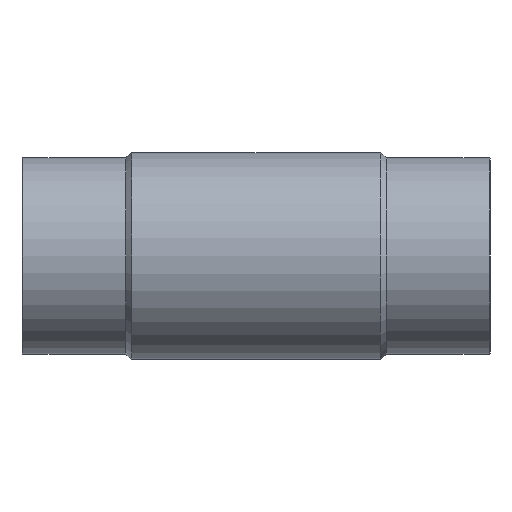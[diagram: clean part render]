
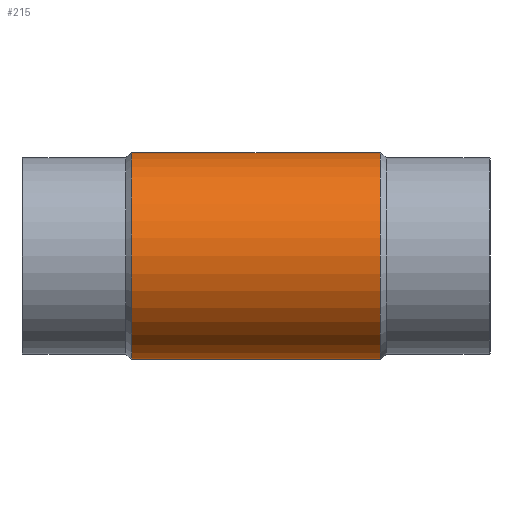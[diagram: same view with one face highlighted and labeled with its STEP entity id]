
A CAD part, front view. The second image highlights one B-rep face of the part: STEP entity #215.
In plain terms, the highlighted cylindrical face has radius 131.5 mm (diameter 263 mm), a full revolution.
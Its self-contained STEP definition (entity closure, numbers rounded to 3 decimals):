
#33=CIRCLE('',#250,131.5);
#35=CIRCLE('',#255,131.5);
#52=ORIENTED_EDGE('',*,*,#94,.T.);
#53=ORIENTED_EDGE('',*,*,#95,.T.);
#54=ORIENTED_EDGE('',*,*,#96,.F.);
#55=ORIENTED_EDGE('',*,*,#92,.T.);
#92=EDGE_CURVE('',#113,#113,#33,.T.);
#94=EDGE_CURVE('',#115,#116,#130,.T.);
#95=EDGE_CURVE('',#116,#115,#131,.F.);
#96=EDGE_CURVE('',#117,#117,#35,.T.);
#113=VERTEX_POINT('',#369);
#115=VERTEX_POINT('',#374);
#116=VERTEX_POINT('',#375);
#117=VERTEX_POINT('',#378);
#130=ELLIPSE('',#253,189.538,131.5);
#131=ELLIPSE('',#254,189.538,131.5);
#139=EDGE_LOOP('',(#52,#53));
#140=EDGE_LOOP('',(#54));
#141=EDGE_LOOP('',(#55));
#175=FACE_BOUND('',#139,.T.);
#176=FACE_BOUND('',#140,.T.);
#177=FACE_BOUND('',#141,.T.);
#207=CYLINDRICAL_SURFACE('',#252,131.5);
#215=ADVANCED_FACE('',(#175,#176,#177),#207,.T.);
#250=AXIS2_PLACEMENT_3D('',#368,#295,#296);
#252=AXIS2_PLACEMENT_3D('',#372,#299,#300);
#253=AXIS2_PLACEMENT_3D('',#373,#301,#302);
#254=AXIS2_PLACEMENT_3D('',#376,#303,#304);
#255=AXIS2_PLACEMENT_3D('',#377,#305,#306);
#295=DIRECTION('',(-1.,0.,0.));
#296=DIRECTION('',(0.,0.,1.));
#299=DIRECTION('',(-1.,0.,0.));
#300=DIRECTION('',(0.,0.,1.));
#301=DIRECTION('',(0.694,-0.72,0.));
#302=DIRECTION('',(-0.72,-0.694,0.));
#303=DIRECTION('',(0.694,0.72,0.));
#304=DIRECTION('',(-0.72,0.694,0.));
#305=DIRECTION('',(-1.,0.,0.));
#306=DIRECTION('',(0.,0.,1.));
#368=CARTESIAN_POINT('',(158.5,0.,0.));
#369=CARTESIAN_POINT('',(158.5,0.,131.5));
#372=CARTESIAN_POINT('',(-60.,0.,0.));
#373=CARTESIAN_POINT('',(0.,0.,0.));
#374=CARTESIAN_POINT('',(0.,0.,-131.5));
#375=CARTESIAN_POINT('',(0.,0.,131.5));
#376=CARTESIAN_POINT('',(0.,0.,0.));
#377=CARTESIAN_POINT('',(-158.5,0.,0.));
#378=CARTESIAN_POINT('',(-158.5,0.,131.5));
